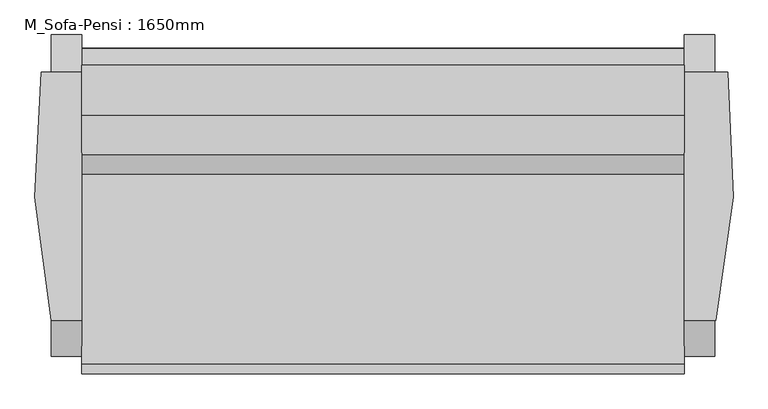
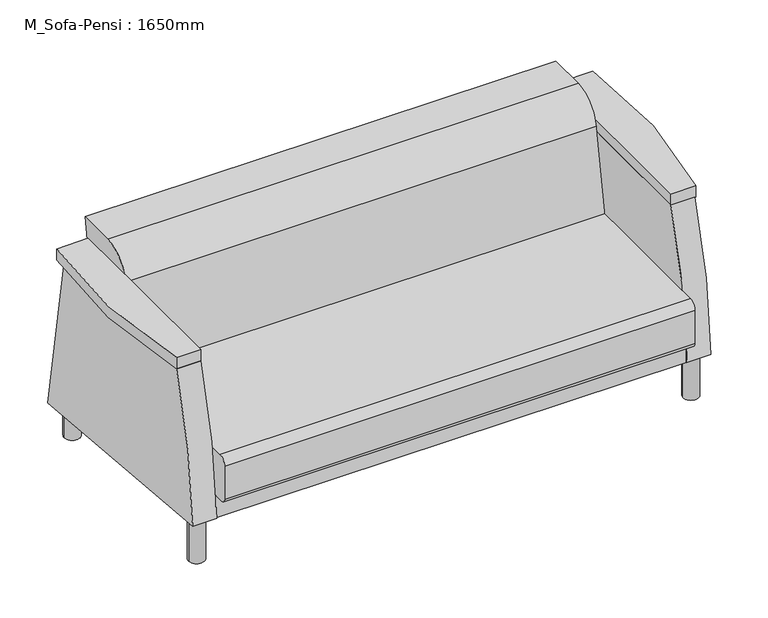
"""IFC4 building model written with IfcOpenShell, lengths in millimetres: furniture geometry, M_Sofa-Pensi : 1650mm."""

from ifc_helpers import new_model, si_unit, point, frame, frame_2d, origin, origin_with_axes, place, context, project, spatial, polyline, circle_curve, trimmed, segment, composite_curve, outline, extrude, source, transform, mapped, element, save
from ifc_brep_helpers import plane_surface, cylinder_surface, advanced_brep


def m_sofa_pensi_1650mm_31461fb8(model_context):
    return source(origin(), model_context, "Body", "SolidModel", [
        advanced_brep(
        [(1103.60625, 701.7619204, 79.3588346), (1103.60625, 608.6917937, 626.0203985), (1103.60625, -9.3943348, 626.0203985), (1103.60625, -97.7900405, 149.3105671), (1027.40625, -9.3943348, 626.0203985), (1027.40625, 608.6917937, 626.0203985), (1027.40625, 701.7619204, 79.3588346), (1027.40625, -83.3930704, 148.0509954), (1027.40625, 668.3047863, 148.0509954), (1027.40625, 668.3047863, 224.2509954), (1027.40625, -93.6952137, 224.2509954), (1027.40625, -93.6952137, 148.9523161), (1027.40625, -97.7900405, 149.3105671), (1027.40625, -93.6952137, 148.0509954), (-470.19375, -83.3930704, 148.0509954), (-470.19375, -93.6952137, 148.0509954), (-470.19375, -93.6952137, 148.9523161), (-470.19375, 668.3047863, 224.2509954), (-470.19375, -93.6952137, 224.2509954), (-470.19375, 668.3047863, 148.0509954), (-470.19375, 701.7619204, 79.3588346), (-470.19375, 608.6917937, 626.0203985), (-470.19375, -9.3943348, 626.0203985), (-470.19375, -97.7900405, 149.3105671), (-546.39375, -9.3943348, 626.0203985), (-546.39375, 608.6917937, 626.0203985), (-546.39375, 701.7619204, 79.3588346), (-546.39375, -97.7900405, 149.3105671)],
        [
            (0, 1),
            (1, 2),
            (2, 3, circle_curve(frame((1103.60625, 1499.9783711, 99.5888442), z_axis=(1.0, 0.0, 0.0), x_axis=(0.0, 1.0, 0.0)), 1598.5418814)),
            (3, 0),
            (4, 5),
            (5, 6),
            (6, 7),
            (7, 8),
            (8, 9),
            (9, 10),
            (10, 4, circle_curve(frame((1027.40625, 1499.9783711, 99.5888442), z_axis=(-1.0, 0.0, 0.0), x_axis=(0.0, 1.0, 0.0)), 1598.5418814)),
            (11, 12),
            (12, 10, circle_curve(frame((1027.40625, 1499.9783711, 99.5888442), z_axis=(-1.0, 0.0, 0.0), x_axis=(0.0, 1.0, 0.0)), 1598.5418814)),
            (10, 11),
            (0, 6),
            (5, 1),
            (4, 2),
            (12, 3),
            (11, 7),
            (11, 13),
            (13, 7),
            (14, 15),
            (15, 16),
            (16, 14),
            (9, 17),
            (17, 18),
            (18, 10),
            (18, 16),
            (15, 13),
            (14, 19),
            (19, 8),
            (19, 17),
            (20, 21),
            (21, 22),
            (22, 18, circle_curve(frame((-470.19375, 1499.9783711, 99.5888442), z_axis=(1.0, 0.0, 0.0), x_axis=(0.0, 1.0, 0.0)), 1598.5418814)),
            (14, 20),
            (18, 23, circle_curve(frame((-470.19375, 1499.9783711, 99.5888442), z_axis=(1.0, 0.0, 0.0), x_axis=(0.0, 1.0, 0.0)), 1598.5418814)),
            (23, 16),
            (24, 25),
            (25, 26),
            (26, 27),
            (27, 24, circle_curve(frame((-546.39375, 1499.9783711, 99.5888442), z_axis=(-1.0, 0.0, 0.0), x_axis=(0.0, 1.0, 0.0)), 1598.5418814)),
            (27, 23),
            (22, 24),
            (26, 20),
            (25, 21),
        ],
        [
            plane_surface(frame((1103.60625, 608.6917937, 626.0203985), z_axis=(1.0000000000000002, 0.0, 0.0), x_axis=(0.0, -0.16783676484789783, 0.985814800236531))),
            plane_surface(frame((1027.40625, 608.6917937, 626.0203985), z_axis=(-1.0000000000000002, 0.0, 0.0), x_axis=(0.0, 0.16783676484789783, -0.985814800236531))),
            plane_surface(frame((1103.60625, 701.7619204, 79.3588346), z_axis=(0.0, 0.985814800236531, 0.16783676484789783), x_axis=(-1.0, 0.0, 0.0))),
            plane_surface(frame((1103.60625, 608.6917937, 626.0203985), z_axis=(0.0, 0.0, 1.0), x_axis=(-1.0, 0.0, 0.0))),
            cylinder_surface(frame((1027.40625, 1499.9783711, 99.5888442), z_axis=(1.0, 0.0, 0.0), x_axis=(0.0, 1.0, 0.0)), 1598.5418814),
            plane_surface(frame((1103.60625, -97.7900405, 149.3105671), z_axis=(0.0, -0.08715574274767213, -0.9961946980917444), x_axis=(-1.0, 0.0, 0.0))),
            plane_surface(frame((1027.40625, -93.6952137, 224.2509954), z_axis=(1.0, 0.0, 0.0), x_axis=(0.0, -1.0, 0.0))),
            plane_surface(frame((-470.19375, -93.6952137, 224.2509954), z_axis=(-1.0, 0.0, 0.0), x_axis=(0.0, 1.0, 0.0))),
            plane_surface(frame((1027.40625, 668.3047863, 224.2509954), z_axis=(0.0, 0.0, 1.0), x_axis=(-1.0, 0.0, 0.0))),
            plane_surface(frame((1027.40625, -93.6952137, 224.2509954), z_axis=(0.0, -1.0, 0.0), x_axis=(-1.0, 0.0, 0.0))),
            plane_surface(frame((1027.40625, -93.6952137, 148.0509954), z_axis=(0.0, 0.0, -1.0), x_axis=(-1.0, 0.0, 0.0))),
            plane_surface(frame((1027.40625, 668.3047863, 148.0509954), z_axis=(0.0, 1.0, 0.0), x_axis=(-1.0, 0.0, 0.0))),
            plane_surface(frame((-470.19375, 3098.5202525, 99.5888442), z_axis=(1.0, 0.0, 0.0), x_axis=(0.0, 0.0, 1.0))),
            plane_surface(frame((-546.39375, 3098.5202525, 99.5888442), z_axis=(-1.0, 0.0, 0.0), x_axis=(0.0, 0.0, -1.0))),
            cylinder_surface(frame((-546.39375, 1499.9783711, 99.5888442), z_axis=(1.0, 0.0, 0.0), x_axis=(0.0, 1.0, 0.0)), 1598.5418814),
            plane_surface(frame((-470.19375, -97.7900405, 149.3105671), z_axis=(0.0, -0.08715574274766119, -0.9961946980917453), x_axis=(-1.0, 0.0, 0.0))),
            plane_surface(frame((-470.19375, 701.7619204, 79.3588346), z_axis=(0.0, 0.9858148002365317, 0.16783676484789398), x_axis=(-1.0, 0.0, 0.0))),
            plane_surface(frame((-470.19375, 608.6917937, 626.0203985), z_axis=(0.0, 0.0, 1.0), x_axis=(-1.0, 0.0, 0.0))),
        ],
        [
            (0, [[1, 2, 3, 4]]),
            (1, [[5, 6, 7, 8, 9, 10, 11]]),
            (1, [[12, 13, 14]]),
            (2, [[-1, 15, -6, 16]]),
            (3, [[-2, -16, -5, 17]]),
            (4, [[-3, -17, -11, -13, 18]]),
            (5, [[-4, -18, -12, 19, -7, -15]]),
            (6, [[20, 21, -19]]),
            (7, [[22, 23, 24]]),
            (8, [[25, 26, 27, -10]]),
            (9, [[-27, 28, -23, 29, -20, -14]]),
            (10, [[-29, -22, 30, 31, -8, -21]]),
            (11, [[-25, -9, -31, 32]]),
            (12, [[33, 34, 35, -26, -32, -30, 36]]),
            (12, [[37, 38, -28]]),
            (13, [[39, 40, 41, 42]]),
            (14, [[-42, 43, -37, -35, 44]]),
            (15, [[-41, 45, -36, -24, -38, -43]]),
            (16, [[-33, -45, -40, 46]]),
            (17, [[-34, -46, -39, -44]]),
        ],
    ),
        extrude(outline(composite_curve([segment(trimmed(circle_curve(frame_2d((-508.29375, -53.0901639)), 25.4), [point((-533.69375, -53.0901639))], [point((-482.89375, -53.0901639))], False, "CARTESIAN"), True, "CONTINUOUS"), segment(trimmed(circle_curve(frame_2d((-508.29375, -53.0901639)), 25.4), [point((-482.89375, -53.0901639))], [point((-533.69375, -53.0901639))], False, "CARTESIAN"), True, "CONTINUOUS")], self_intersect=False)), origin_with_axes(), (0.0, 0.0, 1.0), 148.43125),
        extrude(outline(composite_curve([segment(trimmed(circle_curve(frame_2d((-508.29375, 632.7098361)), 25.4), [point((-533.69375, 632.7098361))], [point((-482.89375, 632.7098361))], False, "CARTESIAN"), True, "CONTINUOUS"), segment(trimmed(circle_curve(frame_2d((-508.29375, 632.7098361)), 25.4), [point((-482.89375, 632.7098361))], [point((-533.69375, 632.7098361))], False, "CARTESIAN"), True, "CONTINUOUS")], self_intersect=False)), origin_with_axes(), (0.0, 0.0, 1.0), 148.43125),
        extrude(outline(composite_curve([segment(trimmed(circle_curve(frame_2d((1065.50625, 632.7098361)), 25.4), [point((1040.10625, 632.7098361))], [point((1090.90625, 632.7098361))], False, "CARTESIAN"), True, "CONTINUOUS"), segment(trimmed(circle_curve(frame_2d((1065.50625, 632.7098361)), 25.4), [point((1090.90625, 632.7098361))], [point((1040.10625, 632.7098361))], False, "CARTESIAN"), True, "CONTINUOUS")], self_intersect=False)), origin_with_axes(), (0.0, 0.0, 1.0), 148.43125),
        extrude(outline(composite_curve([segment(trimmed(circle_curve(frame_2d((1065.50625, -53.0901639)), 25.4), [point((1040.10625, -53.0901639))], [point((1090.90625, -53.0901639))], False, "CARTESIAN"), True, "CONTINUOUS"), segment(trimmed(circle_curve(frame_2d((1065.50625, -53.0901639)), 25.4), [point((1090.90625, -53.0901639))], [point((1040.10625, -53.0901639))], False, "CARTESIAN"), True, "CONTINUOUS")], self_intersect=False)), origin_with_axes(), (0.0, 0.0, 1.0), 148.43125),
        extrude(outline(composite_curve([segment(trimmed(circle_curve(frame_2d((-116.5901639, 351.2509954)), 25.4), [point((-141.9901639, 351.2509954))], [point((-116.5901639, 376.6509954))], False, "CARTESIAN"), True, "CONTINUOUS"), segment(polyline([(-116.5901639, 376.6509954), (355.3895541, 376.6509954), (402.1988177, 642.1195211)]), True, "CONTINUOUS"), segment(trimmed(circle_curve(frame_2d((502.2552854, 624.4768662)), 101.6), [point((402.1988177, 642.1195211))], [point((502.2552854, 726.0768662))], False, "CARTESIAN"), True, "CONTINUOUS"), segment(polyline([(502.2552854, 726.0768662), (626.3344485, 726.0768662), (609.5377828, 620.1719187), (667.6541767, 224.2509954), (-126.1151639, 224.2509954)]), True, "CONTINUOUS"), segment(trimmed(circle_curve(frame_2d((-126.1151639, 240.1259954)), 15.875), [point((-126.1151639, 224.2509954))], [point((-141.9901639, 240.1259954))], False, "CARTESIAN"), True, "CONTINUOUS"), segment(polyline([(-141.9901639, 240.1259954), (-141.9901639, 351.2509954)]), True, "CONTINUOUS")], self_intersect=False)), frame((-470.19375, 0.0, 0.0), z_axis=(1.0, 0.0, 0.0), x_axis=(0.0, 1.0, 0.0)), (0.0, 0.0, 1.0), 1497.6),
        extrude(outline(composite_curve([segment(polyline([(-470.19375, -9.3943348), (-546.39375, -9.3943348)]), True, "CONTINUOUS"), segment(trimmed(circle_curve(frame_2d((1137.7527561, 369.3799517)), 1726.2153441), [point((-546.39375, -9.3943348))], [point((-571.79375, 608.6917935))], False, "CARTESIAN"), True, "CONTINUOUS"), segment(polyline([(-571.79375, 608.6917935), (-470.19375, 608.6917935), (-470.19375, -9.3943348)]), True, "CONTINUOUS")], self_intersect=False)), frame((0.0, 0.0, 626.0203985), z_axis=(0.0, 0.0, 1.0), x_axis=(1.0, 0.0, 0.0)), (0.0, 0.0, 1.0), 38.1),
        extrude(outline(composite_curve([segment(polyline([(1027.40625, -9.3943348), (1027.40625, 608.9395268), (1136.0864453, 608.9395268)]), True, "CONTINUOUS"), segment(trimmed(circle_curve(frame_2d((-579.5771494, 383.2634494)), 1730.4425047), [point((1136.0864453, 608.9395268))], [point((1105.7273117, -9.3943348))], False, "CARTESIAN"), True, "CONTINUOUS"), segment(polyline([(1105.7273117, -9.3943348), (1027.40625, -9.3943348)]), True, "CONTINUOUS")], self_intersect=False)), frame((0.0, 0.0, 626.0203985), z_axis=(0.0, 0.0, 1.0), x_axis=(1.0, 0.0, 0.0)), (0.0, 0.0, 1.0), 38.1),
    ])


if __name__ == "__main__":
    model = new_model("IFC4")
    model_context = context("Model", 3, world=origin())
    ifc_project = project(units=[si_unit("LENGTHUNIT", "METRE", prefix="MILLI")], contexts=[model_context])
    site = spatial("IfcSite", under=ifc_project)
    building = spatial("IfcBuilding", under=site)
    placement = place(None, origin())
    m_sofa_pensi_1650mm_shape = m_sofa_pensi_1650mm_31461fb8(model_context)
    element("IfcFurniture", 1, ObjectType="M_Sofa-Pensi : 1650mm", at=placement, inside=building, context=model_context, shape_type="MappedRepresentation", body=[
        mapped(m_sofa_pensi_1650mm_shape, transform((0.0, 0.0, 0.0), x_axis=(1.0, 0.0, 0.0), y_axis=(0.0, 1.0, 0.0), z_axis=(0.0, 0.0, 1.0))),
    ])
    save(model, "model.ifc")
